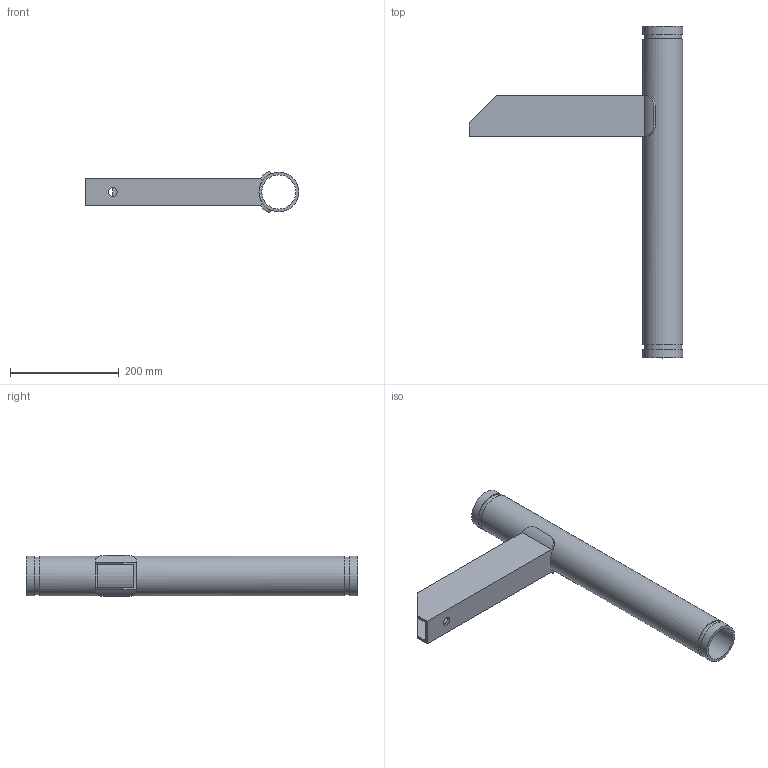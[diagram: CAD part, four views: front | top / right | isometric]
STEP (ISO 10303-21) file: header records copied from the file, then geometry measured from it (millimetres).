
FILE_DESCRIPTION(/* description */ ('VIC SS FLOOR MOUNTED RISER ANCHOR No A40S'),/* implementation_level */ '2;1');
FILE_NAME(/* name */ 'C:\Files for Export\A40 & A40S-STEP-SWX\STEP\Victaulic_SS-OGS_Riser Anchor_No A40S (OGS)\Victaulic_SS-OGS_Riser Anchor_No A40S (OGS)_2.5 (65).stp',/* time_stamp */ '2024-06-07T07:36:49+02:00',/* author */ ('kkamble'),/* organization */ ('Victaulic'),/* preprocessor_version */ 'ST-DEVELOPER v18.1',/* originating_system */ 'Autodesk Inventor 2020',/* authorisation */ '');
FILE_SCHEMA (('AUTOMOTIVE_DESIGN { 1 0 10303 214 3 1 1 }'));
Length unit declared in the file: inch
Products named in the file (1): A40S-02.5
Bounding box: 392.11 x 609.6 x 76.2 mm (x, y, z)
Volume: 1049292.4 mm3; surface area: 405894.4 mm2
Topology: 1 solids, 1 shells, 34 faces, 94 edges, 66 vertices
Faces by surface type: plane 20, cylinder 14
Full cylindrical faces by diameter (mm): 15.875 x1, 62.738 x1, 69.088 x2, 73.025 x3
Entity records: 1327 total; most frequent: CARTESIAN_POINT 339, DIRECTION 192, ORIENTED_EDGE 188, EDGE_CURVE 94, AXIS2_PLACEMENT_3D 71, VERTEX_POINT 66, LINE 50, VECTOR 50
